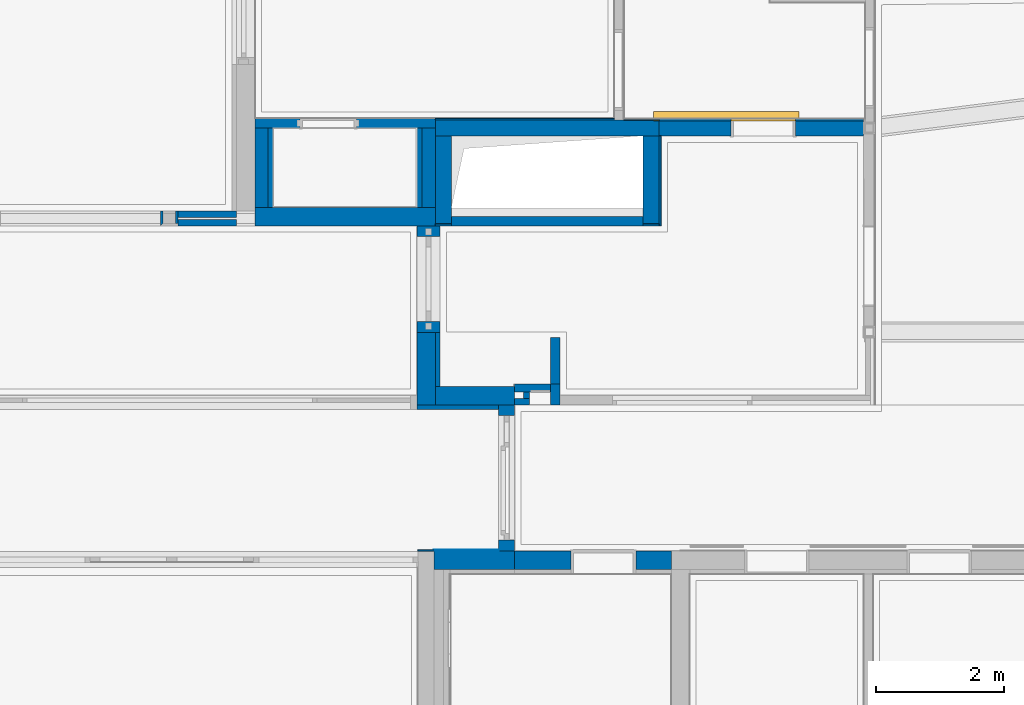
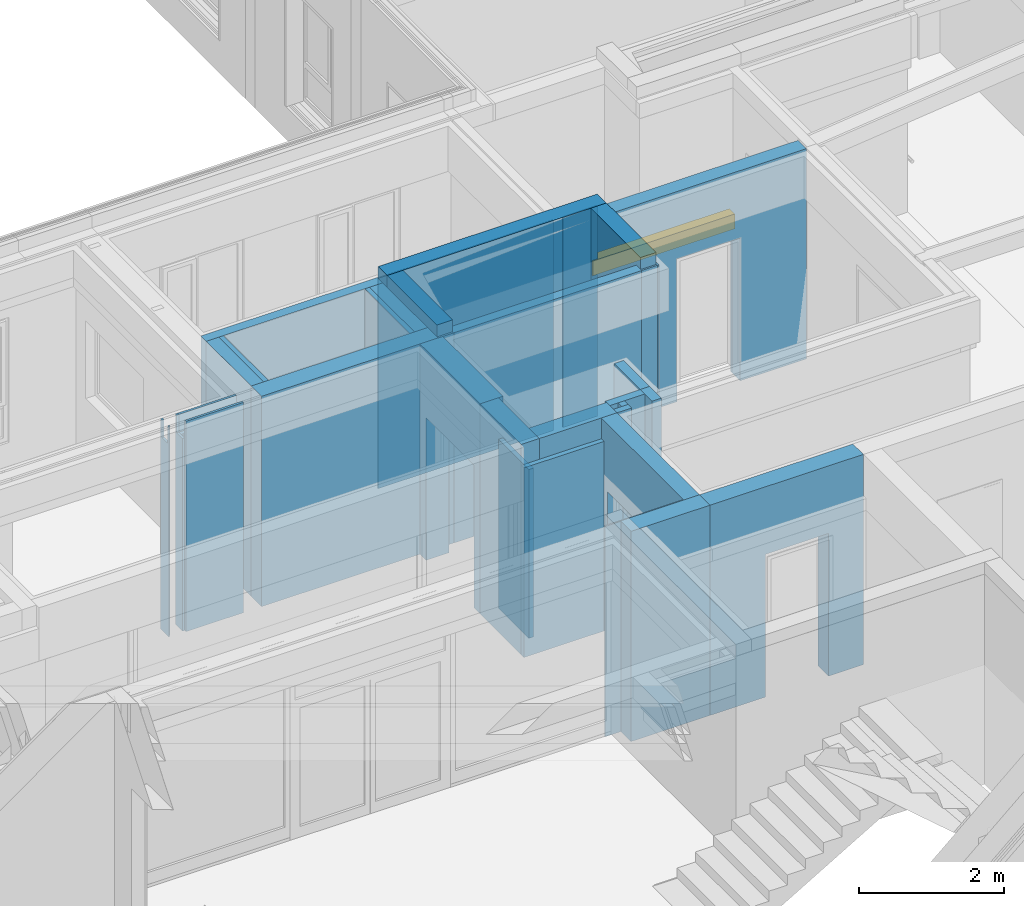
# One storey, part 26 of 222: 36 walls, 1 door, 6 openings.
"""IFC4 building model written with IfcOpenShell, lengths in metres."""

from ifc_helpers import new_model, entity, si_unit, converted_unit, derived_unit, frame, frame_2d, origin, origin_with_axes, place, context, subcontext, project, spatial, polyline, rectangle, outline, extrude, clip, bounded_halfspace, faceted_brep, source, transform, mapped, material, type_object, element, fill, save


model = new_model("IFC4")

# Units and contexts
model_context = context("Model", 3, precision=1e-05, world=origin())
body_context = subcontext(model_context, "Body", "Model", "MODEL_VIEW")
ifc_project = project(units=[si_unit("LENGTHUNIT", "METRE"), si_unit("AREAUNIT", "SQUARE_METRE"), si_unit("VOLUMEUNIT", "CUBIC_METRE"), si_unit("MASSUNIT", "GRAM", prefix="KILO"), converted_unit("PLANEANGLEUNIT", "DEGREE", entity("IfcPlaneAngleMeasure", 0.0174532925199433), si_unit("PLANEANGLEUNIT", "RADIAN"), dimensions=[0, 0, 0, 0, 0, 0, 0]), derived_unit("THERMALTRANSMITTANCEUNIT", [(si_unit("POWERUNIT", "WATT"), 1), (si_unit("THERMODYNAMICTEMPERATUREUNIT", "KELVIN"), -1), (si_unit("LENGTHUNIT", "METRE"), -2)]), derived_unit("VOLUMETRICFLOWRATEUNIT", [(si_unit("LENGTHUNIT", "METRE"), 3), (converted_unit("TIMEUNIT", "hour", entity("IfcTimeMeasure", 3600.0), si_unit("TIMEUNIT", "SECOND"), dimensions=[0, 0, 1, 0, 0, 0, 0]), -1), (si_unit("LENGTHUNIT", "METRE"), -1)])], contexts=[model_context])

# Site, building, storey
site_placement = place(None, origin())
site = spatial("IfcSite", under=ifc_project, at=site_placement, Name="Psychiatrie Neubau Wunstorf", CompositionType="ELEMENT")
building_placement = place(site_placement, origin())
building = spatial("IfcBuilding", under=site, at=building_placement, Name="Neubau H2 Stationsgebäude", CompositionType="ELEMENT")
storey_placement = place(building_placement, frame((0.0, 0.0, 3.6)))
storey = spatial("IfcBuildingStorey", under=building, at=storey_placement, Name="H2 Ebene +1", CompositionType="ELEMENT", Elevation=3.6)

# Walls
ifc_material_1 = material(Name="WI-LB")
wall_1_placement = place(storey_placement, frame((58.800000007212, 5.61749969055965, 0.0)))
element("IfcWall", 1, at=wall_1_placement, inside=storey, material=ifc_material_1, context=body_context, shape_type="Clipping", body=[
    clip(extrude(rectangle(XDim=3.0, YDim=0.15, at=frame_2d((1.5, 0.075), x_axis=(1.0, 0.0))), origin_with_axes(), (0.0, 0.0, 1.0), 3.55), bounded_halfspace(frame((1.5, 0.0900003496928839, 0.1), z_axis=(0.0, 0.0, 1.0), x_axis=(0.0, 1.0, 0.0)), True, origin_with_axes(), polyline([(3.0, 0.0300006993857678), (3.0, 0.15), (0.0, 0.15), (0.0, 0.0300006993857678), (3.0, 0.0300006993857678)]))),
])
ifc_material_2 = material(Name="WI-LB")
wall_2_placement = place(storey_placement, frame((62.050000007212, 7.02299969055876, 0.0), z_axis=(0.0, 0.0, 1.0), x_axis=(0.0, -1.0, 0.0)))
element("IfcWall", 2, at=wall_2_placement, inside=storey, material=ifc_material_2, context=body_context, shape_type="SweptSolid", body=[
    extrude(rectangle(XDim=1.40549999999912, YDim=0.0299996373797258, at=frame_2d((0.702749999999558, 0.0149998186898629), x_axis=(1.0, 0.0))), origin_with_axes(), (0.0, 0.0, 1.0), 3.55),
])
ifc_material_3 = material(Name="WI-LB")
wall_3_placement = place(storey_placement, frame((58.550000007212, 7.27499969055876, 0.0)))
element("IfcWall", 3, at=wall_3_placement, inside=storey, material=ifc_material_3, context=body_context, shape_type="SweptSolid", body=[
    extrude(rectangle(XDim=2.79999999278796, YDim=0.025, at=frame_2d((1.39999999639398, 0.0125), x_axis=(1.0, 0.0))), origin_with_axes(), (0.0, 0.0, 1.0), 3.55),
])
ifc_material_4 = material(Name="WI-LB")
wall_4_placement = place(storey_placement, frame((61.5, 7.26999969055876, 0.0)))
element("IfcWall", 4, at=wall_4_placement, inside=storey, material=ifc_material_4, context=body_context, shape_type="SweptSolid", body=[
    extrude(rectangle(XDim=0.550000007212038, YDim=0.025, at=frame_2d((0.275000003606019, 0.0125), x_axis=(1.0, 0.0))), origin_with_axes(), (0.0, 0.0, 1.0), 3.55),
])
ifc_material_5 = material(Name="WI-STB")
wall_5_placement = place(storey_placement, frame((61.800000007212, 7.02499969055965, 0.0), z_axis=(0.0, 0.0, 1.0), x_axis=(0.0, -1.0, 0.0)))
element("IfcWall", 5, at=wall_5_placement, inside=storey, material=ifc_material_5, context=body_context, shape_type="Clipping", body=[
    clip(extrude(rectangle(XDim=1.3775, YDim=0.25, at=frame_2d((0.68875, 0.125), x_axis=(1.0, 0.0))), origin_with_axes(), (0.0, 0.0, 1.0), 3.75), bounded_halfspace(frame((1.25249965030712, 0.125, 0.1), z_axis=(0.0, 0.0, 1.0), x_axis=(0.0, -1.0, 0.0)), True, origin_with_axes(), polyline([(1.12749930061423, 0.25), (1.12749930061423, 0.0), (1.3775, 0.0), (1.3775, 0.25), (1.12749930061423, 0.25)]))),
])
ifc_material_6 = material(Name="WI-HW 60")
wall_6_placement = place(storey_placement, frame((58.559000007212, 5.90749969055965, 0.0), z_axis=(0.0, 0.0, 1.0), x_axis=(-1.0, 0.0, 0.0)))
element("IfcWall", 6, at=wall_6_placement, inside=storey, material=ifc_material_6, context=body_context, shape_type="SweptSolid", body=[
    extrude(outline(polyline([(-2.82649999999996, -0.29), (0.0, -0.29), (0.0, 0.0), (-2.81749999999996, 0.0), (-2.81749999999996, -0.15), (-2.82649999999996, -0.15), (-2.82649999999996, -0.29)])), frame((2.82649999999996, 0.29, 0.0), z_axis=(0.0, 0.0, 1.0), x_axis=(1.0, 0.0, 0.0)), (0.0, 0.0, 1.0), 3.55),
])

# Wall, opening
ifc_material_7 = material(Name="WI-LB")
wall_7_placement = place(storey_placement, frame((65.2449963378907, 7.29499969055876, 0.0), z_axis=(0.0, 0.0, 1.0), x_axis=(-1.0, 0.0, 0.0)))
wall_7 = element("IfcWall", 7, at=wall_7_placement, inside=storey, material=ifc_material_7, context=body_context, shape_type="SweptSolid", body=[
    extrude(rectangle(XDim=3.19499633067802, YDim=0.04, at=frame_2d((1.59749816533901, 0.02), x_axis=(1.0, 0.0))), origin_with_axes(), (0.0, 0.0, 1.0), 2.85),
])
opening_1_placement = place(wall_7_placement, frame((1.05999633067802, 0.0, 0.0), z_axis=(0.0, 1.0, 0.0), x_axis=(0.0, 0.0, 1.0)))
element("IfcOpeningElement", 8, at=opening_1_placement, cuts=wall_7, Name="Türöffnung", ObjectType="Opening", context=body_context, shape_type="SweptSolid", body=[
    extrude(outline(polyline([(2.41, 1.01), (2.41, 0.0), (0.0, 0.0), (0.0, 1.01), (2.41, 1.01)])), origin_with_axes(), (0.0, 0.0, 1.0), 0.04),
])

# Wall, opening, door
ifc_material_8 = material(Name="WI-HW 60")
wall_8_placement = place(storey_placement, frame((65.2449963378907, 7.25499969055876, 0.0), z_axis=(0.0, 0.0, 1.0), x_axis=(-1.0, 0.0, 0.0)))
wall_8 = element("IfcWall", 9, at=wall_8_placement, inside=storey, material=ifc_material_8, context=body_context, shape_type="SweptSolid", body=[
    extrude(rectangle(XDim=3.19499633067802, YDim=0.232, at=frame_2d((1.59749816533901, 0.116), x_axis=(1.0, 0.0))), origin_with_axes(), (0.0, 0.0, 1.0), 3.55),
])
opening_2_placement = place(wall_8_placement, frame((1.05999633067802, 0.0, 0.0), z_axis=(0.0, 1.0, 0.0), x_axis=(0.0, 0.0, 1.0)))
opening_2 = element("IfcOpeningElement", 10, at=opening_2_placement, cuts=wall_8, Name="Türöffnung", ObjectType="Opening", context=body_context, shape_type="SweptSolid", body=[
    extrude(outline(polyline([(2.41, 1.01), (2.41, 0.0), (0.0, 0.0), (0.0, 1.01), (2.41, 1.01)])), origin_with_axes(), (0.0, 0.0, 1.0), 0.232),
])
door_type = type_object("IfcDoorType", Name="SMT", OperationType="NOTDEFINED", ParameterTakesPrecedence=False, PredefinedType="DOOR")
shared_shape = source(origin_with_axes(), body_context, "Body", "Brep", [
    faceted_brep([(0.0, 0.15, 0.0), (0.0, 0.0, 0.0), (2.27, 0.0, 0.0), (2.27, 0.15, 0.0), (0.0, 0.0, 0.25), (0.0, 0.15, 0.25), (2.27, 0.15, 0.25), (2.27, 0.0, 0.25)], [[[0, 1, 2, 3]], [[4, 5, 6, 7]], [[1, 0, 5, 4]], [[2, 1, 4, 7]], [[3, 2, 7, 6]], [[0, 3, 6, 5]]], orient=[[False], [False], [False], [False], [False], [False]]),
])
door_placement = place(opening_2_placement, frame((2.41, -0.05, 0.0), z_axis=(1.0, 0.0, 0.0), x_axis=(0.0, 1.0, -2.44929359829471e-16)))
door = element("IfcDoor", 11, at=door_placement, inside=storey, type_object=door_type, Name="SMT", OverallHeight=2.41, OverallWidth=1.01, context=body_context, shape_type="MappedRepresentation", body=[
    mapped(shared_shape, transform((0.0, 0.0, 0.0), x_axis=(1.0, 0.0, 0.0), y_axis=(0.0, -1.0, 0.0), z_axis=(0.0, 0.0, 1.0), scale=1.0)),
])
fill(opening_2, door)

# Walls
ifc_material_9 = material(Name="WI-STB")
wall_9_placement = place(storey_placement, frame((58.550000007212, 7.02499969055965, 0.0), z_axis=(0.0, 0.0, 1.0), x_axis=(0.0, -1.0, 0.0)))
element("IfcWall", 12, at=wall_9_placement, inside=storey, material=ifc_material_9, context=body_context, shape_type="Clipping", body=[
    clip(extrude(rectangle(XDim=1.3775, YDim=0.25, at=frame_2d((0.68875, 0.125), x_axis=(1.0, 0.0))), origin_with_axes(), (0.0, 0.0, 1.0), 3.75), bounded_halfspace(frame((1.25249965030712, 0.125, 0.1), z_axis=(0.0, 0.0, 1.0), x_axis=(0.0, -1.0, 0.0)), True, origin_with_axes(), polyline([(1.12749930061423, 0.25), (1.12749930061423, 0.0), (1.3775, 0.0), (1.3775, 0.25), (1.12749930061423, 0.25)]))),
])
ifc_material_10 = material(Name="WI-STB")
wall_10_placement = place(storey_placement, frame((58.550000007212, 7.02499969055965, 0.0)))
element("IfcWall", 13, at=wall_10_placement, inside=storey, material=ifc_material_10, context=body_context, shape_type="SweptSolid", body=[
    extrude(rectangle(XDim=3.50000000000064, YDim=0.25, at=frame_2d((1.75000000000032, 0.125), x_axis=(1.0, 0.0))), origin_with_axes(), (0.0, 0.0, 1.0), 3.75),
])

# Wall, opening
ifc_material_11 = material(Name="WI-LB")
wall_11_placement = place(storey_placement, frame((58.550000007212, 7.29999969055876, 0.0), z_axis=(0.0, 0.0, 1.0), x_axis=(-1.0, 0.0, 0.0)))
wall_11 = element("IfcWall", 14, at=wall_11_placement, inside=storey, material=ifc_material_11, context=body_context, shape_type="SweptSolid", body=[
    extrude(rectangle(XDim=2.81749999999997, YDim=0.15, at=frame_2d((1.40874999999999, 0.075), x_axis=(1.0, 0.0))), origin_with_axes(), (0.0, 0.0, 1.0), 3.55),
])
opening_3_placement = place(wall_11_placement, frame((2.12049999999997, 0.15, 0.0), z_axis=(0.0, -1.0, 0.0), x_axis=(0.0, 0.0, 1.0)))
element("IfcOpeningElement", 15, at=opening_3_placement, cuts=wall_11, Name="Türöffnung", ObjectType="Opening", context=body_context, shape_type="SweptSolid", body=[
    extrude(outline(polyline([(2.41, 0.885), (2.41, 0.0), (0.0, 0.0), (0.0, 0.885), (2.41, 0.885)])), origin_with_axes(), (0.0, 0.0, 1.0), 0.15),
])

# Walls
ifc_material_12 = material(Name="WI-LB")
wall_12_placement = place(storey_placement, frame((61.800000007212, 5.61749969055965, 0.0)))
element("IfcWall", 16, at=wall_12_placement, inside=storey, material=ifc_material_12, context=body_context, shape_type="SweptSolid", body=[
    extrude(rectangle(XDim=0.250000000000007, YDim=0.0299996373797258, at=frame_2d((0.125000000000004, 0.0149998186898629), x_axis=(1.0, 0.0))), origin_with_axes(), (0.0, 0.0, 1.0), 3.55),
])
ifc_material_13 = material(Name="WI-LB")
wall_13_placement = place(storey_placement, frame((58.550000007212, 5.61749969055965, 0.0)))
element("IfcWall", 17, at=wall_13_placement, inside=storey, material=ifc_material_13, context=body_context, shape_type="SweptSolid", body=[
    extrude(rectangle(XDim=0.25, YDim=0.0299996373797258, at=frame_2d((0.125, 0.0149998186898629), x_axis=(1.0, 0.0))), origin_with_axes(), (0.0, 0.0, 1.0), 3.55),
])
ifc_material_14 = material(Name="WI-LB")
wall_14_placement = place(storey_placement, frame((54.5244929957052, 5.65349943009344, 0.0), z_axis=(0.0, 0.0, 1.0), x_axis=(0.0, 1.0, 0.0)))
element("IfcWall", 18, at=wall_14_placement, inside=storey, material=ifc_material_14, context=body_context, shape_type="Clipping", body=[
    clip(extrude(rectangle(XDim=0.196000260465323, YDim=0.0359997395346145, at=frame_2d((0.0980001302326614, 0.0179998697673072), x_axis=(1.0, 0.0))), origin_with_axes(), (0.0, 0.0, 1.0), 3.55), bounded_halfspace(frame((0.0800001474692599, 0.0179998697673, 3.25), z_axis=(0.0, 0.0, -1.0), x_axis=(-1.0, 0.0, 0.0)), True, origin_with_axes(), polyline([(0.160000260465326, 0.0359997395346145), (6.89463849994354e-08, 0.0359997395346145), (0.0, 0.0), (0.160000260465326, 0.0), (0.160000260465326, 0.0359997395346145)]))),
])
ifc_material_15 = material(Name="WI-LB")
wall_15_placement = place(storey_placement, frame((54.2524929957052, 5.84949969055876, 0.0), z_axis=(0.0, 0.0, 1.0), x_axis=(0.0, -1.0, 0.0)))
element("IfcWall", 19, at=wall_15_placement, inside=storey, material=ifc_material_15, context=body_context, shape_type="Clipping", body=[
    clip(extrude(outline(polyline([(-0.231999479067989, 0.0), (0.0, 0.0), (-0.0359996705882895, 0.0359997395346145), (-0.231999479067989, 0.0359997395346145), (-0.231999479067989, 0.0)])), frame((0.231999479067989, 0.0, 0.0), z_axis=(0.0, 0.0, 1.0), x_axis=(1.0, 0.0, 0.0)), (0.0, 0.0, 1.0), 3.55), bounded_halfspace(frame((0.115999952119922, 0.0179998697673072, 3.25), z_axis=(0.0, 0.0, -1.0), x_axis=(1.0, 0.0, 0.0)), True, origin_with_axes(), polyline([(0.0359999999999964, 0.0), (0.195999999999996, 0.0), (0.1959998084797, 0.0359997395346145), (0.0359999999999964, 0.0359997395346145), (0.0359999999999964, 0.0)]))),
])
ifc_material_16 = material(Name="WI-LB")
wall_16_placement = place(storey_placement, frame((55.4425000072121, 5.84949969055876, 0.0), z_axis=(0.0, 0.0, 1.0), x_axis=(-1.0, 0.0, 0.0)))
element("IfcWall", 20, at=wall_16_placement, inside=storey, material=ifc_material_16, context=body_context, shape_type="Clipping", body=[
    clip(extrude(rectangle(XDim=0.918007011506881, YDim=0.1, at=frame_2d((0.459003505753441, 0.05), x_axis=(1.0, 0.0))), origin_with_axes(), (0.0, 0.0, 1.0), 3.55), bounded_halfspace(frame((0.459003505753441, 0.0679999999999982, 3.25), z_axis=(0.0, 0.0, -1.0), x_axis=(-1.0, 0.0, 0.0)), True, origin_with_axes(), polyline([(0.918007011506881, 0.1), (0.0, 0.1), (0.0, 0.0359999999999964), (0.918007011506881, 0.0359999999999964), (0.918007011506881, 0.1)]))),
])
ifc_material_17 = material(Name="WI-LB")
wall_17_placement = place(storey_placement, frame((54.5244929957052, 5.61750021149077, 0.0)))
element("IfcWall", 21, at=wall_17_placement, inside=storey, material=ifc_material_17, context=body_context, shape_type="Clipping", body=[
    clip(extrude(rectangle(XDim=0.918007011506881, YDim=0.1, at=frame_2d((0.459003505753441, 0.05), x_axis=(1.0, 0.0))), origin_with_axes(), (0.0, 0.0, 1.0), 3.55), bounded_halfspace(frame((0.459003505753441, 0.067999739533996, 3.25), z_axis=(0.0, 0.0, -1.0), x_axis=(0.0, -1.0, 0.0)), True, origin_with_axes(), polyline([(0.0, 0.1), (0.0, 0.035999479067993), (0.918007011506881, 0.035999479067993), (0.918007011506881, 0.1), (0.0, 0.1)]))),
])
ifc_material_18 = material(Name="WI-LB")
wall_18_placement = place(storey_placement, frame((58.2779951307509, 0.525, 0.0)))
element("IfcWall", 22, at=wall_18_placement, inside=storey, material=ifc_material_18, context=body_context, shape_type="SweptSolid", body=[
    extrude(rectangle(XDim=0.250004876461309, YDim=0.0235, at=frame_2d((0.125002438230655, 0.01175), x_axis=(1.0, 0.0))), origin_with_axes(), (0.0, 0.0, 1.0), 3.55),
])
ifc_material_19 = material(Name="WI-LB")
wall_19_placement = place(storey_placement, frame((58.5280000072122, 0.536002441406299, 0.0)))
element("IfcWall", 23, at=wall_19_placement, inside=storey, material=ifc_material_19, context=body_context, shape_type="SweptSolid", body=[
    extrude(rectangle(XDim=1.01131381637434, YDim=0.0125, at=frame_2d((0.505656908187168, 0.00625), x_axis=(1.0, 0.0))), origin_with_axes(), (0.0, 0.0, 1.0), 3.55),
])
ifc_material_20 = material(Name="WI-LB")
wall_20_placement = place(storey_placement, frame((59.7893138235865, 2.81751349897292, 0.0)))
element("IfcWall", 24, at=wall_20_placement, inside=storey, material=ifc_material_20, context=body_context, shape_type="SweptSolid", body=[
    extrude(rectangle(XDim=0.235686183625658, YDim=0.1, at=frame_2d((0.117843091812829, 0.05), x_axis=(1.0, 0.0))), origin_with_axes(), (0.0, 0.0, 1.0), 3.55),
])
ifc_material_21 = material(Name="WI-LB")
wall_21_placement = place(storey_placement, frame((60.0250000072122, 2.91751349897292, 0.0), z_axis=(0.0, 0.0, 1.0), x_axis=(0.0, 1.0, 0.0)))
element("IfcWall", 25, at=wall_21_placement, inside=storey, material=ifc_material_21, context=body_context, shape_type="SweptSolid", body=[
    extrude(outline(polyline([(0.0, -0.1), (0.100086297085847, -0.1), (0.100095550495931, 0.0), (0.0, 0.0), (0.0, -0.1)])), frame((0.0, 0.1, 0.0), z_axis=(0.0, 0.0, 1.0), x_axis=(1.0, 0.0, 0.0)), (0.0, 0.0, 1.0), 3.55),
])
ifc_material_22 = material(Name="WI-LB")
wall_22_placement = place(storey_placement, frame((60.3500000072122, 3.14256972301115, 0.0), z_axis=(0.0, 0.0, 1.0), x_axis=(-0.99999999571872, 9.25341004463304e-05, 0.0)))
element("IfcWall", 26, at=wall_22_placement, inside=storey, material=ifc_material_22, context=body_context, shape_type="SweptSolid", body=[
    extrude(outline(polyline([(-0.560674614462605, -0.125051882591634), (1.15715635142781e-05, -0.125051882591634), (0.0, -5.18825916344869e-05), (-0.560686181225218, -5.18825916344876e-05), (-0.560674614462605, -0.125051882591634)])), frame((0.560674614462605, 0.125051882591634, 0.0), z_axis=(0.0, 0.0, 1.0), x_axis=(1.0, 0.0, 0.0)), (0.0, 0.0, 1.0), 3.55),
])
ifc_material_23 = material(Name="WI-LB")
wall_23_placement = place(storey_placement, frame((58.2600000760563, 2.74249969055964, 0.0)))
element("IfcWall", 27, at=wall_23_placement, inside=storey, material=ifc_material_23, context=body_context, shape_type="SweptSolid", body=[
    extrude(rectangle(XDim=1.27931374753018, YDim=0.075, at=frame_2d((0.639656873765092, 0.0375), x_axis=(1.0, 0.0))), origin_with_axes(), (0.0, 0.0, 1.0), 3.2),
])
ifc_material_24 = material(Name="WI-HW 60")
wall_24_placement = place(storey_placement, frame((58.550000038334, 2.81749969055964, 0.0)))
element("IfcWall", 28, at=wall_24_placement, inside=storey, material=ifc_material_24, context=body_context, shape_type="SweptSolid", body=[
    extrude(rectangle(XDim=1.2393137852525, YDim=0.29, at=frame_2d((0.619656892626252, 0.145), x_axis=(1.0, 0.0))), origin_with_axes(), (0.0, 0.0, 1.0), 3.55),
])
ifc_material_25 = material(Name="WI-HW 60")
wall_25_placement = place(storey_placement, frame((58.260000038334, 3.95249969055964, 0.0), z_axis=(0.0, 0.0, 1.0), x_axis=(3.32355230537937e-08, -0.999999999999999, 0.0)))
element("IfcWall", 29, at=wall_25_placement, inside=storey, material=ifc_material_25, context=body_context, shape_type="SweptSolid", body=[
    extrude(outline(polyline([(-1.135, 3.77223186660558e-08), (-0.271999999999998, 0.0), (-0.231999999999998, 0.0), (-0.15, 4.27076471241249e-08), (0.0, 3.77223186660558e-08), (0.0, 0.29), (-1.1349999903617, 0.290000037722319), (-1.135, 3.77223186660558e-08)])), frame((1.135, -3.77223186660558e-08, 0.0), z_axis=(0.0, 0.0, 1.0), x_axis=(1.0, 0.0, 0.0)), (0.0, 0.0, 1.0), 3.55),
])
ifc_material_26 = material(Name="WI-LB")
wall_26_placement = place(storey_placement, frame((58.550000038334, 3.95249969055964, 0.0), z_axis=(0.0, 0.0, 1.0), x_axis=(0.0, -1.0, 0.0)))
element("IfcWall", 30, at=wall_26_placement, inside=storey, material=ifc_material_26, context=body_context, shape_type="SweptSolid", body=[
    extrude(rectangle(XDim=0.845, YDim=0.075, at=frame_2d((0.4225, 0.0375), x_axis=(1.0, 0.0))), origin_with_axes(), (0.0, 0.0, 1.0), 2.85),
])
ifc_material_27 = material(Name="Installationsraum")
wall_27_placement = place(storey_placement, frame((55.7325000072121, 7.14999969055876, 0.0), z_axis=(0.0, 0.0, 1.0), x_axis=(0.0, -1.0, 0.0)))
element("IfcWall", 31, at=wall_27_placement, inside=storey, material=ifc_material_27, context=body_context, shape_type="SweptSolid", body=[
    extrude(rectangle(XDim=1.24249999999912, YDim=0.2, at=frame_2d((0.621249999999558, 0.1), x_axis=(1.0, 0.0))), origin_with_axes(), (0.0, 0.0, 1.0), 3.55),
])
ifc_material_28 = material(Name="WI-VS")
wall_28_placement = place(storey_placement, frame((55.9325000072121, 7.14999969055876, 0.0), z_axis=(0.0, 0.0, 1.0), x_axis=(0.0, -1.0, 0.0)))
element("IfcWall", 32, at=wall_28_placement, inside=storey, material=ifc_material_28, context=body_context, shape_type="SweptSolid", body=[
    extrude(rectangle(XDim=1.24249999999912, YDim=0.075, at=frame_2d((0.621249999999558, 0.0375), x_axis=(1.0, 0.0))), origin_with_axes(), (0.0, 0.0, 1.0), 3.55),
])
ifc_material_29 = material(Name="Installationsraum")
wall_29_placement = place(storey_placement, frame((58.550000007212, 5.90749969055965, 0.0), z_axis=(0.0, 0.0, 1.0), x_axis=(0.0, 1.0, 0.0)))
element("IfcWall", 33, at=wall_29_placement, inside=storey, material=ifc_material_29, context=body_context, shape_type="SweptSolid", body=[
    extrude(rectangle(XDim=1.24249999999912, YDim=0.21, at=frame_2d((0.621249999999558, 0.105), x_axis=(1.0, 0.0))), origin_with_axes(), (0.0, 0.0, 1.0), 3.55),
])
ifc_material_30 = material(Name="WI-VS")
wall_30_placement = place(storey_placement, frame((58.340000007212, 5.90749969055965, 0.0), z_axis=(0.0, 0.0, 1.0), x_axis=(0.0, 1.0, 0.0)))
element("IfcWall", 34, at=wall_30_placement, inside=storey, material=ifc_material_30, context=body_context, shape_type="SweptSolid", body=[
    extrude(rectangle(XDim=1.24249999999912, YDim=0.075, at=frame_2d((0.621249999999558, 0.0375), x_axis=(1.0, 0.0))), origin_with_axes(), (0.0, 0.0, 1.0), 3.55),
])

# Wall, opening
ifc_material_31 = material(Name="WI-LW 60")
wall_31_placement = place(storey_placement, frame((58.260000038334, 5.61749969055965, 0.0), z_axis=(0.0, 0.0, 1.0), x_axis=(0.0, -1.0, 0.0)))
wall_31 = element("IfcWall", 35, at=wall_31_placement, inside=storey, material=ifc_material_31, context=body_context, shape_type="SweptSolid", body=[
    extrude(rectangle(XDim=1.665, YDim=0.365, at=frame_2d((0.832500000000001, 0.1825), x_axis=(1.0, 0.0))), origin_with_axes(), (0.0, 0.0, 1.0), 3.55),
])
opening_4_placement = place(wall_31_placement, frame((1.49502242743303, 0.365, 0.0), z_axis=(0.0, -1.0, 0.0), x_axis=(0.0, 0.0, 1.0)))
element("IfcOpeningElement", 36, at=opening_4_placement, cuts=wall_31, Name="Türöffnung", ObjectType="Opening", context=body_context, shape_type="SweptSolid", body=[
    extrude(outline(polyline([(2.41, 1.325), (2.41, 0.0), (0.0, 0.0), (0.0, 1.325), (2.41, 1.325)])), origin_with_axes(), (0.0, 0.0, 1.0), 0.365),
])

# Walls
ifc_material_32 = material(Name="WI-HW 60")
wall_32_placement = place(storey_placement, frame((59.7893138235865, 0.535994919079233, 0.0), z_axis=(0.0, 0.0, 1.0), x_axis=(-0.999999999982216, 5.96388223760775e-06, 0.0)))
element("IfcWall", 37, at=wall_32_placement, inside=storey, material=ifc_material_32, context=body_context, shape_type="SweptSolid", body=[
    extrude(outline(polyline([(-1.01131208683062, -0.290006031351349), (1.72952572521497e-06, -0.289999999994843), (0.0, 0.0), (-1.26131381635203, -7.52232706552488e-06), (-1.26131208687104, -0.289999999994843), (-1.01131208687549, -0.289998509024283), (-1.01131208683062, -0.290006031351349)])), frame((1.26131208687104, 0.289999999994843, 0.0), z_axis=(0.0, 0.0, 1.0), x_axis=(1.0, 0.0, 0.0)), (0.0, 0.0, 1.0), 3.55),
])
ifc_material_33 = material(Name="WI-LB")
wall_33_placement = place(storey_placement, frame((60.5000000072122, 3.14256972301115, 0.0), z_axis=(0.0, 0.0, 1.0), x_axis=(0.0, 1.0, 0.0)))
element("IfcWall", 38, at=wall_33_placement, inside=storey, material=ifc_material_33, context=body_context, shape_type="SweptSolid", body=[
    extrude(rectangle(XDim=0.725056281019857, YDim=0.15, at=frame_2d((0.362528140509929, 0.075), x_axis=(1.0, 0.0))), origin_with_axes(), (0.0, 0.0, 1.0), 3.55),
])
ifc_material_34 = material(Name="WI-LB")
wall_34_placement = place(storey_placement, frame((60.5000000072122, 2.81762600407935, 0.0), z_axis=(0.0, 0.0, 1.0), x_axis=(0.0, 1.0, 0.0)))
element("IfcWall", 39, at=wall_34_placement, inside=storey, material=ifc_material_34, context=body_context, shape_type="SweptSolid", body=[
    extrude(rectangle(XDim=0.324943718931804, YDim=0.15, at=frame_2d((0.162471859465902, 0.075), x_axis=(1.0, 0.0))), origin_with_axes(), (0.0, 0.0, 1.0), 3.55),
])

# Wall, opening
ifc_material_35 = material(Name="WI-HW 60")
wall_35_placement = place(storey_placement, frame((62.239793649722, 0.536002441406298, 0.0), z_axis=(0.0, 0.0, 1.0), x_axis=(-1.0, 9.27874096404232e-17, 0.0)))
wall_35 = element("IfcWall", 40, at=wall_35_placement, inside=storey, material=ifc_material_35, context=body_context, shape_type="SweptSolid", body=[
    extrude(rectangle(XDim=2.45047982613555, YDim=0.29, at=frame_2d((1.22523991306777, 0.145), x_axis=(1.0, 0.0))), origin_with_axes(), (0.0, 0.0, 1.0), 3.55),
])
opening_5_placement = place(wall_35_placement, frame((1.56556807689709, 0.289999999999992, 0.0), z_axis=(0.0, -1.0, 0.0), x_axis=(0.0, 0.0, 1.0)))
element("IfcOpeningElement", 41, at=opening_5_placement, cuts=wall_35, Name="Türöffnung", ObjectType="Opening", context=body_context, shape_type="SweptSolid", body=[
    extrude(outline(polyline([(2.41, 1.01), (2.41, 0.0), (0.0, 0.0), (0.0, 1.01), (2.41, 1.01)])), origin_with_axes(), (0.0, 0.0, 1.0), 0.29),
])

ifc_material_36 = material(Name="WI-LB")
wall_36_placement = place(storey_placement, frame((59.5393138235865, 2.81749969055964, 0.0), z_axis=(0.0, 0.0, 1.0), x_axis=(0.0, -1.0, 0.0)))
wall_36 = element("IfcWall", 42, at=wall_36_placement, inside=storey, material=ifc_material_36, context=body_context, shape_type="SweptSolid", body=[
    extrude(rectangle(XDim=2.28150477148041, YDim=0.25, at=frame_2d((1.14075238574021, 0.125), x_axis=(1.0, 0.0))), origin_with_axes(), (0.0, 0.0, 1.0), 3.55),
])
opening_6_placement = place(wall_36_placement, frame((2.11150477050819, 0.25, 0.0), z_axis=(0.0, -1.0, 0.0), x_axis=(0.0, 0.0, 1.0)))
element("IfcOpeningElement", 43, at=opening_6_placement, cuts=wall_36, Name="Türöffnung", ObjectType="Opening", context=body_context, shape_type="SweptSolid", body=[
    extrude(outline(polyline([(2.41, 1.9425), (2.41, 0.0), (0.0, 0.0), (0.0, 1.9425), (2.41, 1.9425)])), origin_with_axes(), (0.0, 0.0, 1.0), 0.25),
])

save(model, "model.ifc")
